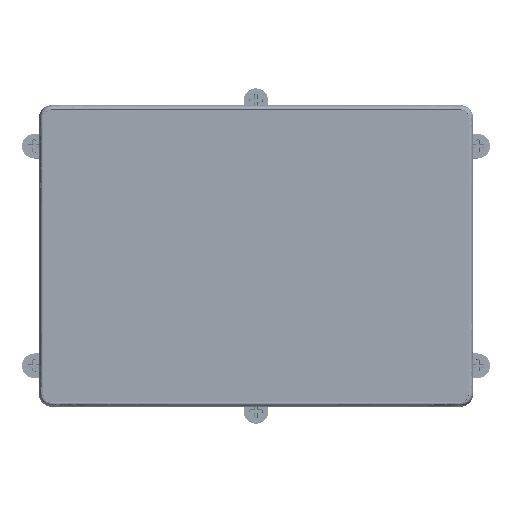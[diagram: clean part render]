
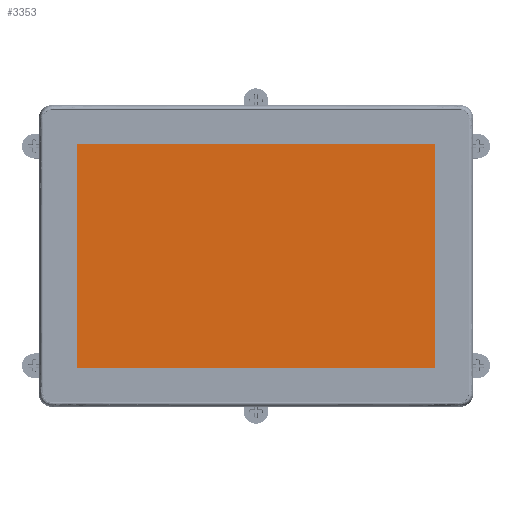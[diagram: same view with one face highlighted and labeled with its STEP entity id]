
A CAD part, top view. The second image highlights one B-rep face of the part: STEP entity #3353.
In plain terms, the highlighted planar face has unit normal (0, 0, 1).
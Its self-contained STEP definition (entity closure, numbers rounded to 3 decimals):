
#713=DIRECTION('',(0.,-1.,0.));
#714=VECTOR('',#713,136.64);
#715=CARTESIAN_POINT('',(-109.,68.32,4.29));
#716=LINE('',#715,#714);
#717=DIRECTION('',(-1.,0.,0.));
#718=VECTOR('',#717,218.);
#719=CARTESIAN_POINT('',(109.,68.32,4.29));
#720=LINE('',#719,#718);
#721=DIRECTION('',(0.,1.,0.));
#722=VECTOR('',#721,136.64);
#723=CARTESIAN_POINT('',(109.,-68.32,4.29));
#724=LINE('',#723,#722);
#725=DIRECTION('',(1.,0.,0.));
#726=VECTOR('',#725,218.);
#727=CARTESIAN_POINT('',(-109.,-68.32,4.29));
#728=LINE('',#727,#726);
#2218=CARTESIAN_POINT('',(-109.,68.32,4.29));
#2219=VERTEX_POINT('',#2218);
#2220=CARTESIAN_POINT('',(-109.,-68.32,4.29));
#2221=VERTEX_POINT('',#2220);
#2222=CARTESIAN_POINT('',(109.,68.32,4.29));
#2223=VERTEX_POINT('',#2222);
#2224=CARTESIAN_POINT('',(109.,-68.32,4.29));
#2225=VERTEX_POINT('',#2224);
#3342=CARTESIAN_POINT('',(0.,0.,4.29));
#3343=DIRECTION('',(0.,0.,1.));
#3344=DIRECTION('',(1.,0.,0.));
#3345=AXIS2_PLACEMENT_3D('',#3342,#3343,#3344);
#3346=PLANE('',#3345);
#3347=ORIENTED_EDGE('',*,*,#3265,.F.);
#3348=ORIENTED_EDGE('',*,*,#3289,.F.);
#3349=ORIENTED_EDGE('',*,*,#3308,.F.);
#3350=ORIENTED_EDGE('',*,*,#3328,.F.);
#3351=EDGE_LOOP('',(#3347,#3348,#3349,#3350));
#3352=FACE_OUTER_BOUND('',#3351,.F.);
#3353=ADVANCED_FACE('',(#3352),#3346,.T.);
#3265=EDGE_CURVE('',#2219,#2221,#716,.T.);
#3289=EDGE_CURVE('',#2223,#2219,#720,.T.);
#3308=EDGE_CURVE('',#2225,#2223,#724,.T.);
#3328=EDGE_CURVE('',#2221,#2225,#728,.T.);
